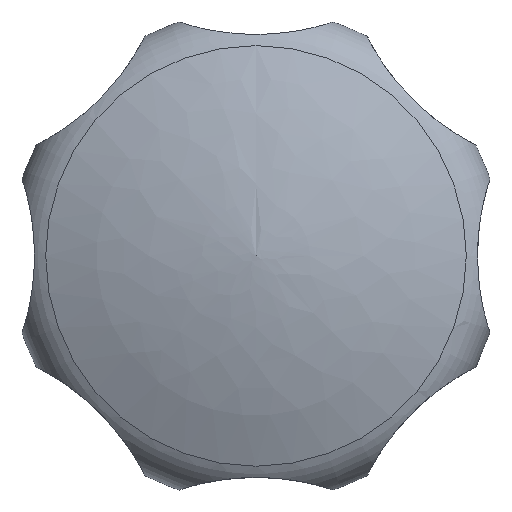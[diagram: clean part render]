
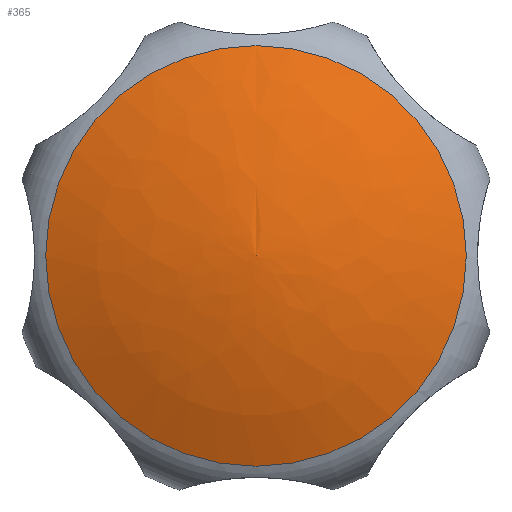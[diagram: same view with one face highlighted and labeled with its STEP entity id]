
A CAD part, top view. The second image highlights one B-rep face of the part: STEP entity #365.
In plain terms, the highlighted free-form (B-spline) face has degree [2, 2] with [3, 9] control points.
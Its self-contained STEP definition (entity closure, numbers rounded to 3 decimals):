
#304=CARTESIAN_POINT('',(0.,17.25,23.15));
#305=VERTEX_POINT('',#304);
#312=CARTESIAN_POINT('',(0.,0.,23.15));
#313=DIRECTION('',(0.,1.,0.));
#314=DIRECTION('',(0.,0.,1.));
#315=AXIS2_PLACEMENT_3D('',#312,#314,#313);
#316=CIRCLE('',#315,17.25);
#317=EDGE_CURVE('',#305,#305,#316,.T.);
#324=CARTESIAN_POINT('',(0.,17.25,23.15));
#325=CARTESIAN_POINT('',(-17.25,17.25,23.15));
#326=CARTESIAN_POINT('',(-17.25,0.,23.15));
#327=CARTESIAN_POINT('',(-17.25,-17.25,23.15));
#328=CARTESIAN_POINT('',(0.,-17.25,23.15));
#329=CARTESIAN_POINT('',(17.25,-17.25,23.15));
#330=CARTESIAN_POINT('',(17.25,0.,23.15));
#331=CARTESIAN_POINT('',(17.25,17.25,23.15));
#332=CARTESIAN_POINT('',(0.,17.25,23.15));
#333=CARTESIAN_POINT('',(0.,8.98,26.686));
#334=CARTESIAN_POINT('',(-8.98,8.98,26.686));
#335=CARTESIAN_POINT('',(-8.98,0.,26.686));
#336=CARTESIAN_POINT('',(-8.98,-8.98,26.686));
#337=CARTESIAN_POINT('',(0.,-8.98,26.686));
#338=CARTESIAN_POINT('',(8.98,-8.98,26.686));
#339=CARTESIAN_POINT('',(8.98,0.,26.686));
#340=CARTESIAN_POINT('',(8.98,8.98,26.686));
#341=CARTESIAN_POINT('',(0.,8.98,26.686));
#342=CARTESIAN_POINT('',(0.,0.,27.2));
#343=CARTESIAN_POINT('',(0.,0.,27.2));
#344=CARTESIAN_POINT('',(0.,0.,27.2));
#345=CARTESIAN_POINT('',(0.,0.,27.2));
#346=CARTESIAN_POINT('',(0.,0.,27.2));
#347=CARTESIAN_POINT('',(0.,0.,27.2));
#348=CARTESIAN_POINT('',(0.,0.,27.2));
#349=CARTESIAN_POINT('',(0.,0.,27.2));
#350=CARTESIAN_POINT('',(0.,0.,27.2));
#351=(BOUNDED_SURFACE()B_SPLINE_SURFACE(2,2,((#324,#325,#326,#327,#328,#329,#330,#331,#332),(#333,#334,#335,#336,#337,#338,#339,#340,#341),(#342,#343,#344,#345,#346,#347,#348,#349,#350)),.UNSPECIFIED.,.F.,.T.,.U.)B_SPLINE_SURFACE_WITH_KNOTS((3,3),(3,2,2,2,3),(0.,1.),(0.,0.25,0.5,0.75,1.),.UNSPECIFIED.)GEOMETRIC_REPRESENTATION_ITEM()RATIONAL_B_SPLINE_SURFACE(((1.,0.707,1.,0.707,1.,0.707,1.,0.707,1.),(0.985,0.697,0.985,0.697,0.985,0.697,0.985,0.697,0.985),(1.,0.707,1.,0.707,1.,0.707,1.,0.707,1.)))REPRESENTATION_ITEM('')SURFACE());
#352=CARTESIAN_POINT('',(0.,0.,27.2));
#353=VERTEX_POINT('',#352);
#354=CARTESIAN_POINT('',(0.,-2.936,-24.066));
#355=DIRECTION('',(0.,0.393,0.919));
#356=DIRECTION('',(1.,0.,0.));
#357=AXIS2_PLACEMENT_3D('',#354,#356,#355);
#358=CIRCLE('',#357,51.35);
#359=EDGE_CURVE('',#305,#353,#358,.T.);
#360=ORIENTED_EDGE('E99',*,*,#359,.T.);
#361=ORIENTED_EDGE('E104',*,*,#359,.F.);
#362=ORIENTED_EDGE('E104',*,*,#317,.F.);
#363=EDGE_LOOP('',(#360,#361,#362));
#364=FACE_OUTER_BOUND('',#363,.F.);
#365=ADVANCED_FACE('F69',(#364),#351,.F.);
